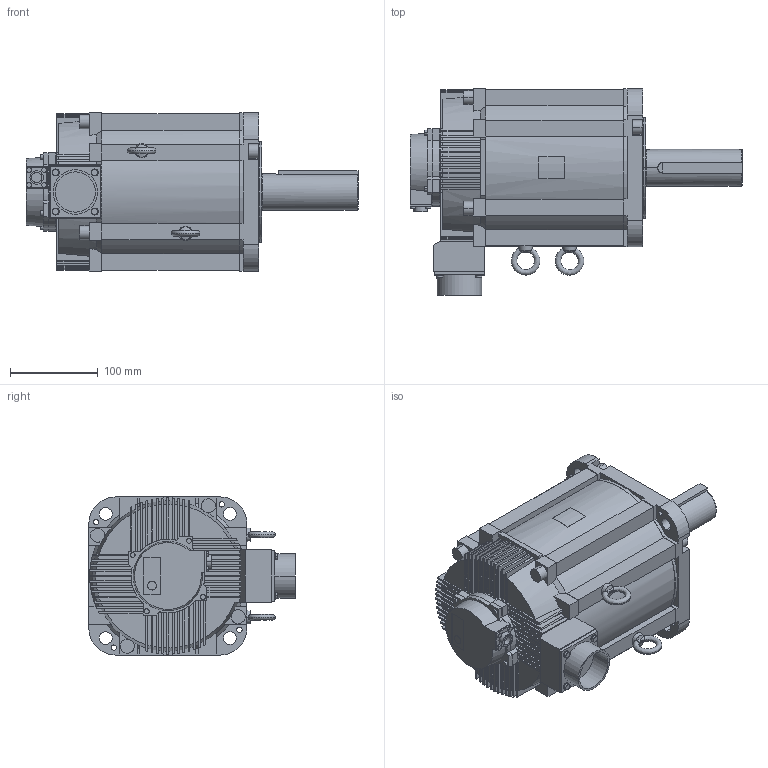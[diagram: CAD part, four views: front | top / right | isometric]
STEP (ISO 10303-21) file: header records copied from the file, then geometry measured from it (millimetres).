
FILE_DESCRIPTION( (''), '2;1');
FILE_NAME ('SGMXG-75AUA61C2.stp','2022-03-02T11:36:10',(''),(''),'spGate 15.6.6','','');
FILE_SCHEMA (('AUTOMOTIVE_DESIGN'));
Length unit declared in the file: millimetre
Products named in the file (3): Assembly; SGMXG-75AUA61C2-prt0; SGMXG-75AUA61C2-prt1
Assembly tree (2 placements, depth 2):
  Assembly
    SGMXG-75AUA61C2-prt0
    SGMXG-75AUA61C2-prt1
Bounding box: 378.2 x 235 x 180 mm (x, y, z)
Volume: 6517670.2 mm3; surface area: 323299.9 mm2
Topology: 2 solids, 2 shells, 763 faces, 2121 edges, 1398 vertices
Faces by surface type: plane 484, cylinder 186, bspline 93
Entity records: 42221 total; most frequent: CARTESIAN_POINT 6269, ORIENTED_EDGE 4242, DIRECTION 3907, COLOUR_RGB 2886, PRESENTATION_STYLE_ASSIGNMENT 2886, STYLED_ITEM 2886, EDGE_CURVE 2121, DRAUGHTING_PRE_DEFINED_CURVE_FONT 2121
